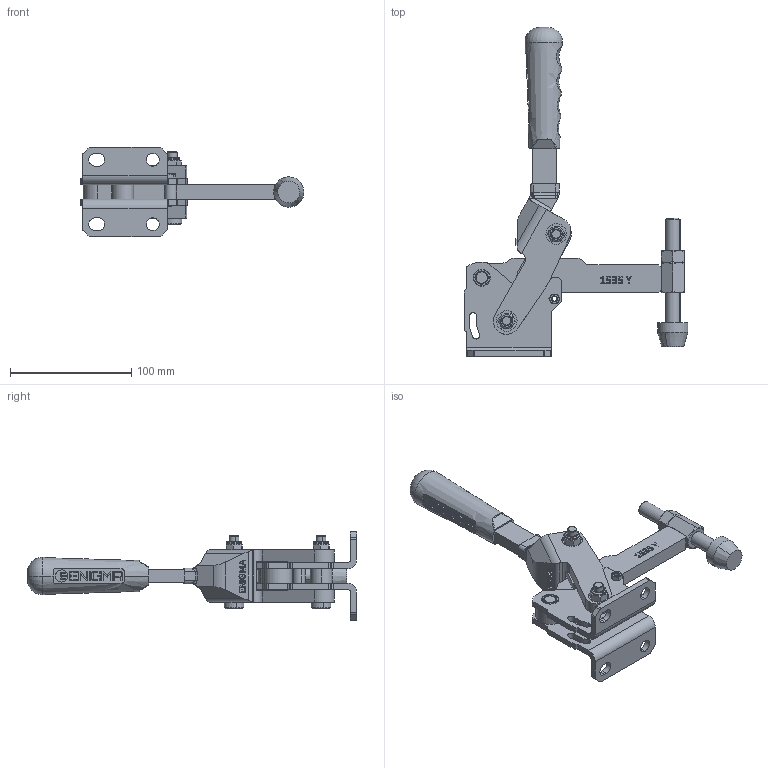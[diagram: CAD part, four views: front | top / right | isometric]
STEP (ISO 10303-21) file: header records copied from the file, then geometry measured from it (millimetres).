
FILE_DESCRIPTION (( 'STEP AP203' ), '1' );
FILE_NAME ('1535_Y.STEP', '2022-12-05T05:49:21', ( '' ), ( '' ), 'SwSTEP 2.0', 'SolidWorks 2023', '' );
FILE_SCHEMA (( 'CONFIG_CONTROL_DESIGN' ));
Length unit declared in the file: millimetre
Products named in the file (19): 1535_Burc_14x10x5_1; 1535_Y; 1535_Cap10x22 Tırtıllı Pim_1; 1535_Mafsal_5mm_1; Baskı M12_1; C100_T_10x20(YENİ_TUTAMAK_10x20)_Varsayılan; Aynalama1535_UA_Gövde_1; M8 Fiberli Somun_1; 1505_MafsalGrubu_Kilitli_1; 1535_cap5x12_on paralel burc_1; M5 Somun_1; M12 Somun_1; 1535_HareketKolu_1; 1533_M12 Lama Ön Somunu_1; 1535_UA_Baskı Kolu_1; G39x8x10x40_1; 1535_UA_Gövde_1; 1535_dovme mafsal_1; 1535_cap10x18_ara mesafe burcu_1
Assembly tree (28 placements, depth 3):
  1535_Y
    1535_UA_Gövde_1
    1505_MafsalGrubu_Kilitli_1
      1535_dovme mafsal_1
      1535_Mafsal_5mm_1  x2
      1535_Burc_14x10x5_1  x4
      G39x8x10x40_1  x2
      1535_cap10x18_ara mesafe burcu_1  x2
    Aynalama1535_UA_Gövde_1
    1535_UA_Baskı Kolu_1
    1535_cap5x12_on paralel burc_1
    1535_Cap10x22 Tırtıllı Pim_1  x2
    1535_Burc_14x10x5_1  x2
    M5 Somun_1
    1535_HareketKolu_1
    1533_M12 Lama Ön Somunu_1
    Baskı M12_1
    M12 Somun_1
    M8 Fiberli Somun_1  x2
    C100_T_10x20(YENİ_TUTAMAK_10x20)_Varsayılan
Bounding box: 184.5 x 271.28 x 74 mm (x, y, z)
Volume: 305906.2 mm3; surface area: 117429.2 mm2
Topology: 27 solids, 27 shells, 1676 faces, 4356 edges, 2774 vertices
Faces by surface type: plane 988, cylinder 342, bspline 194, cone 142, torus 10
Entity records: 44003 total; most frequent: CARTESIAN_POINT 16288, ORIENTED_EDGE 5666, DIRECTION 4693, EDGE_CURVE 2833, VERTEX_POINT 1850, VECTOR 1671, LINE 1671, AXIS2_PLACEMENT_3D 1511
